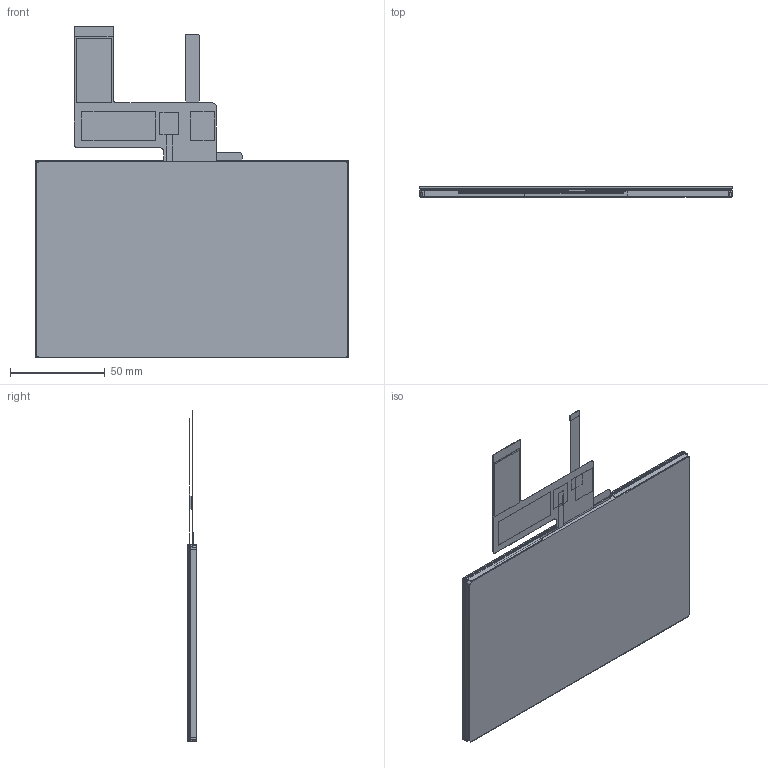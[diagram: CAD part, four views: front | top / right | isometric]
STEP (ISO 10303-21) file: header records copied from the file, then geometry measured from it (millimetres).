
FILE_DESCRIPTION (( 'STEP AP203' ), '1' );
FILE_NAME ('NHD-7.0-800480AF-ASXP-CTP.STEP', '2024-07-08T20:45:35', ( '' ), ( '' ), 'SwSTEP 2.0', 'SolidWorks 2019', '' );
FILE_SCHEMA (( 'CONFIG_CONTROL_DESIGN' ));
Length unit declared in the file: millimetre
Products named in the file (2): NHD-7.0-800480AF-ASXP-CTP
Bounding box: 165 x 5.25 x 175 mm (x, y, z)
Volume: 76872.8 mm3; surface area: 199230.9 mm2
Topology: 15 solids, 15 shells, 317 faces, 842 edges, 561 vertices
Faces by surface type: plane 235, cylinder 82
Entity records: 9927 total; most frequent: CARTESIAN_POINT 1722, ORIENTED_EDGE 1684, DIRECTION 1644, EDGE_CURVE 842, VECTOR 678, LINE 678, VERTEX_POINT 561, AXIS2_PLACEMENT_3D 483
